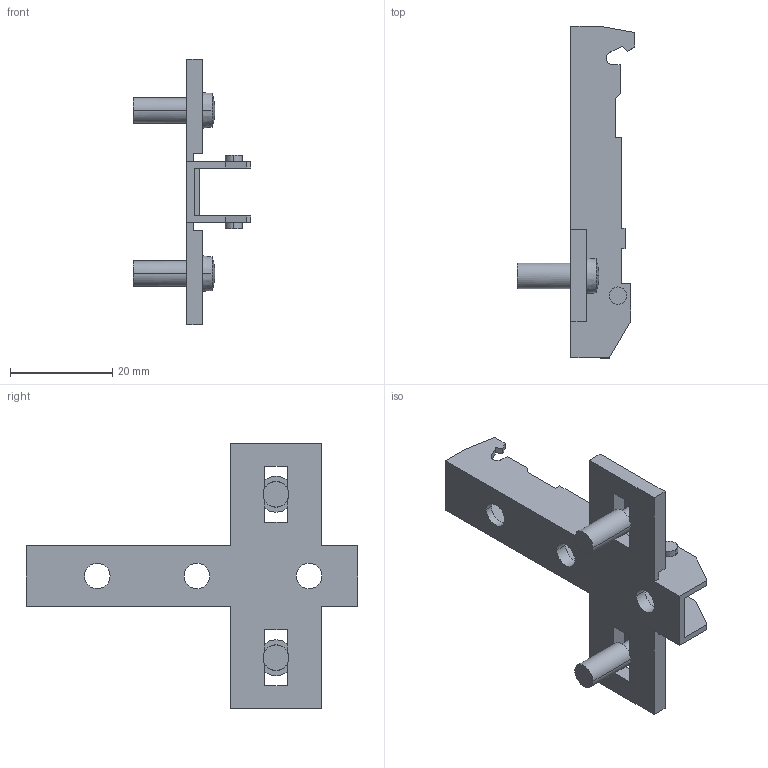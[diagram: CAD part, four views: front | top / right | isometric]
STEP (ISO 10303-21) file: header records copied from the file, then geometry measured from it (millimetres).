
FILE_DESCRIPTION (( 'STEP AP214' ), '1' );
FILE_NAME ('Eco Kreuzmontageplatte LR28_32_Dübel 5mm_lang_H02.step', '2010-11-18T10:07:24', ( 'grass' ), ( '' ), 'SwSTEP 2.0', 'SolidWorks 2010', '' );
FILE_SCHEMA (( 'AUTOMOTIVE_DESIGN' ));
Length unit declared in the file: millimetre
Products named in the file (1): Eco Kreuzmontageplatte LR28_32_Dübel 5mm_lang_H02
Bounding box: 23 x 65 x 52 mm (x, y, z)
Volume: 5004.7 mm3; surface area: 6420.4 mm2
Topology: 1 solids, 1 shells, 104 faces, 310 edges, 202 vertices
Faces by surface type: plane 76, cylinder 20, sphere 4, cone 4
Entity records: 3552 total; most frequent: ORIENTED_EDGE 620, CARTESIAN_POINT 617, DIRECTION 592, EDGE_CURVE 310, LINE 238, VECTOR 238, VERTEX_POINT 202, AXIS2_PLACEMENT_3D 177
